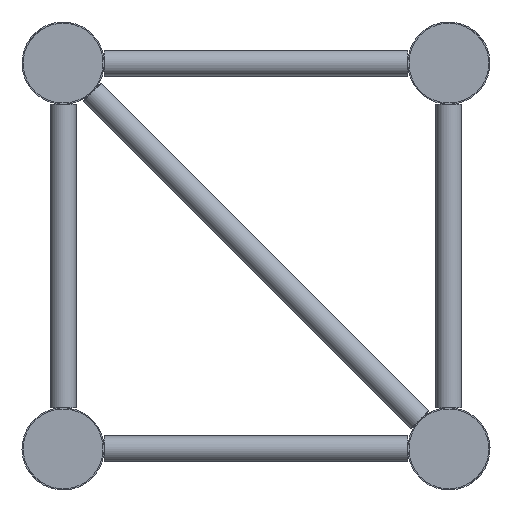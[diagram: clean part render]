
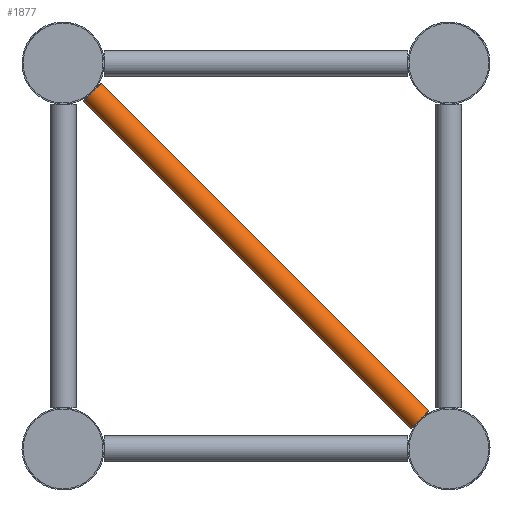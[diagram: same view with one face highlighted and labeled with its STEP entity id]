
A CAD part, left-side view. The second image highlights one B-rep face of the part: STEP entity #1877.
In plain terms, the highlighted cylindrical face has radius 8 mm (diameter 16 mm), a full revolution.
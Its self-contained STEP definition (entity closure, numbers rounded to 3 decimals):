
#26=B_SPLINE_CURVE_WITH_KNOTS('',3,(#2981,#2982,#2983,#2984,#2985,#2986),
 .UNSPECIFIED.,.F.,.F.,(4,2,4),(1.187,1.214,1.242),
 .UNSPECIFIED.);
#28=B_SPLINE_CURVE_WITH_KNOTS('',3,(#2999,#3000,#3001,#3002,#3003,#3004),
 .UNSPECIFIED.,.F.,.F.,(4,2,4),(3.616,3.643,3.67),
 .UNSPECIFIED.);
#31=B_SPLINE_CURVE_WITH_KNOTS('',3,(#3040,#3041,#3042,#3043,#3044,#3045),
 .UNSPECIFIED.,.F.,.F.,(4,2,4),(3.616,3.643,3.67),
 .UNSPECIFIED.);
#32=B_SPLINE_CURVE_WITH_KNOTS('',3,(#3049,#3050,#3051,#3052,#3053,#3054),
 .UNSPECIFIED.,.F.,.F.,(4,2,4),(1.187,1.214,1.242),
 .UNSPECIFIED.);
#150=CIRCLE('',#2085,8.);
#151=CIRCLE('',#2086,8.);
#152=CIRCLE('',#2087,8.);
#153=CIRCLE('',#2088,8.);
#263=FACE_BOUND('',#614,.T.);
#351=CYLINDRICAL_SURFACE('',#2084,8.);
#436=FACE_OUTER_BOUND('',#613,.T.);
#613=EDGE_LOOP('',(#1278,#1279,#1280,#1281));
#614=EDGE_LOOP('',(#1282,#1283,#1284,#1285));
#864=VERTEX_POINT('',#2978);
#865=VERTEX_POINT('',#2980);
#868=VERTEX_POINT('',#2996);
#869=VERTEX_POINT('',#2998);
#878=VERTEX_POINT('',#3038);
#879=VERTEX_POINT('',#3039);
#880=VERTEX_POINT('',#3046);
#881=VERTEX_POINT('',#3048);
#1022=EDGE_CURVE('',#865,#864,#26,.T.);
#1026=EDGE_CURVE('',#869,#868,#28,.T.);
#1037=EDGE_CURVE('',#864,#869,#150,.T.);
#1038=EDGE_CURVE('',#868,#865,#151,.T.);
#1039=EDGE_CURVE('',#878,#879,#31,.T.);
#1040=EDGE_CURVE('',#879,#880,#152,.T.);
#1041=EDGE_CURVE('',#880,#881,#32,.T.);
#1042=EDGE_CURVE('',#881,#878,#153,.T.);
#1278=ORIENTED_EDGE('',*,*,#1022,.T.);
#1279=ORIENTED_EDGE('',*,*,#1037,.T.);
#1280=ORIENTED_EDGE('',*,*,#1026,.T.);
#1281=ORIENTED_EDGE('',*,*,#1038,.T.);
#1282=ORIENTED_EDGE('',*,*,#1039,.T.);
#1283=ORIENTED_EDGE('',*,*,#1040,.T.);
#1284=ORIENTED_EDGE('',*,*,#1041,.T.);
#1285=ORIENTED_EDGE('',*,*,#1042,.T.);
#1877=ADVANCED_FACE('',(#436,#263),#351,.T.);
#2084=AXIS2_PLACEMENT_3D('',#3035,#2457,#2458);
#2085=AXIS2_PLACEMENT_3D('',#3036,#2459,#2460);
#2086=AXIS2_PLACEMENT_3D('',#3037,#2461,#2462);
#2087=AXIS2_PLACEMENT_3D('',#3047,#2463,#2464);
#2088=AXIS2_PLACEMENT_3D('',#3055,#2465,#2466);
#2457=DIRECTION('center_axis',(0.,0.707,
0.707));
#2458=DIRECTION('ref_axis',(0.,0.707,-0.707));
#2459=DIRECTION('center_axis',(0.,0.707,
0.707));
#2460=DIRECTION('ref_axis',(0.,0.707,-0.707));
#2461=DIRECTION('center_axis',(0.,0.707,
0.707));
#2462=DIRECTION('ref_axis',(0.,0.707,-0.707));
#2463=DIRECTION('center_axis',(0.,-0.707,
-0.707));
#2464=DIRECTION('ref_axis',(0.,0.707,-0.707));
#2465=DIRECTION('center_axis',(0.,-0.707,
-0.707));
#2466=DIRECTION('ref_axis',(0.,0.707,-0.707));
#2978=CARTESIAN_POINT('',(67.995,18.224,-221.164));
#2980=CARTESIAN_POINT('',(67.995,17.836,-220.776));
#2981=CARTESIAN_POINT('Ctrl Pts',(67.995,17.836,-220.776));
#2982=CARTESIAN_POINT('Ctrl Pts',(67.998,17.902,-220.84));
#2983=CARTESIAN_POINT('Ctrl Pts',(68.,17.967,-220.904));
#2984=CARTESIAN_POINT('Ctrl Pts',(68.,18.096,-221.033));
#2985=CARTESIAN_POINT('Ctrl Pts',(67.998,18.16,-221.098));
#2986=CARTESIAN_POINT('Ctrl Pts',(67.995,18.224,-221.164));
#2996=CARTESIAN_POINT('',(52.005,17.836,-220.776));
#2998=CARTESIAN_POINT('',(52.005,18.224,-221.164));
#2999=CARTESIAN_POINT('Ctrl Pts',(52.005,18.224,-221.164));
#3000=CARTESIAN_POINT('Ctrl Pts',(52.002,18.16,-221.098));
#3001=CARTESIAN_POINT('Ctrl Pts',(52.,18.096,-221.033));
#3002=CARTESIAN_POINT('Ctrl Pts',(52.,17.967,-220.904));
#3003=CARTESIAN_POINT('Ctrl Pts',(52.002,17.902,-220.84));
#3004=CARTESIAN_POINT('Ctrl Pts',(52.005,17.836,-220.776));
#3035=CARTESIAN_POINT('Origin',(60.,119.5,-119.5));
#3036=CARTESIAN_POINT('Origin',(60.,18.03,-220.97));
#3037=CARTESIAN_POINT('Origin',(60.,18.03,-220.97));
#3038=CARTESIAN_POINT('',(67.995,221.164,-18.224));
#3039=CARTESIAN_POINT('',(67.995,220.776,-17.836));
#3040=CARTESIAN_POINT('Ctrl Pts',(67.995,221.164,-18.224));
#3041=CARTESIAN_POINT('Ctrl Pts',(67.998,221.098,-18.16));
#3042=CARTESIAN_POINT('Ctrl Pts',(68.,221.033,-18.096));
#3043=CARTESIAN_POINT('Ctrl Pts',(68.,220.904,-17.967));
#3044=CARTESIAN_POINT('Ctrl Pts',(67.998,220.84,-17.902));
#3045=CARTESIAN_POINT('Ctrl Pts',(67.995,220.776,-17.836));
#3046=CARTESIAN_POINT('',(52.005,220.776,-17.836));
#3047=CARTESIAN_POINT('Origin',(60.,220.97,-18.03));
#3048=CARTESIAN_POINT('',(52.005,221.164,-18.224));
#3049=CARTESIAN_POINT('Ctrl Pts',(52.005,220.776,-17.836));
#3050=CARTESIAN_POINT('Ctrl Pts',(52.002,220.84,-17.902));
#3051=CARTESIAN_POINT('Ctrl Pts',(52.,220.904,-17.967));
#3052=CARTESIAN_POINT('Ctrl Pts',(52.,221.033,-18.096));
#3053=CARTESIAN_POINT('Ctrl Pts',(52.002,221.098,-18.16));
#3054=CARTESIAN_POINT('Ctrl Pts',(52.005,221.164,-18.224));
#3055=CARTESIAN_POINT('Origin',(60.,220.97,-18.03));
